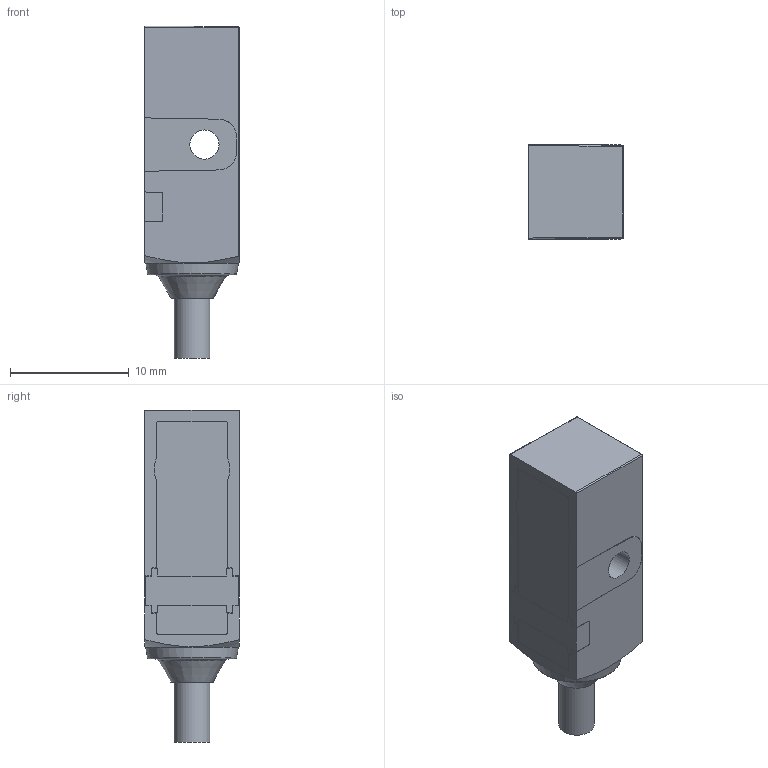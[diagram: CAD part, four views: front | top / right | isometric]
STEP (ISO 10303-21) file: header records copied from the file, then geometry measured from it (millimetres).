
FILE_DESCRIPTION( ( 'Unknown' ), '1' );
FILE_NAME( 'X:/SolidEdge/Models/Dokumentationen/Induktiv/IxFx 08/Vereinfachte Modelle/Neutralformate/IFFM 08xxx03_O1L_G2.stp', 'Unknown', ( 'Unknown' ), ( 'Unknown' ), 'PSStep 15.0.49', 'Unknown', ' ' );
FILE_SCHEMA( ( 'AUTOMOTIVE_DESIGN { 1 0 10303 214 1 1 1 1 }' ) );
Length unit declared in the file: millimetre
Products named in the file (1): 11085685
Bounding box: 8 x 8 x 28 mm (x, y, z)
Volume: 1340.2 mm3; surface area: 896.4 mm2
Topology: 1 solids, 1 shells, 144 faces, 396 edges, 258 vertices
Faces by surface type: plane 83, cylinder 45, bspline 6, cone 5, torus 3, sphere 2
Full cylindrical faces by diameter (mm): 2.459 x1, 3 x1, 6.5 x1
Entity records: 5892 total; most frequent: CARTESIAN_POINT 1097, DIRECTION 760, ORIENTED_EDGE 758, EDGE_CURVE 379, AXIS2_PLACEMENT_3D 269, VERTEX_POINT 252, LINE 222, VECTOR 222
